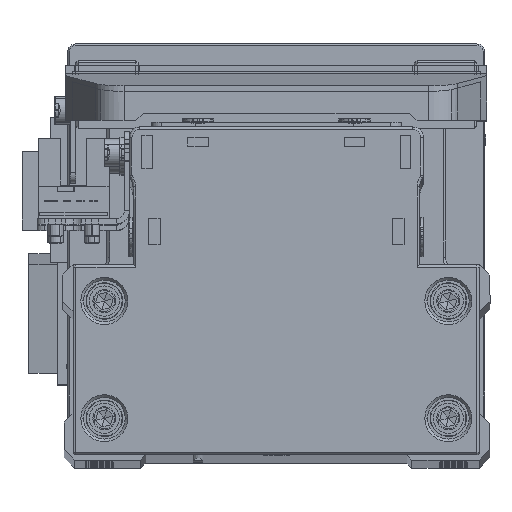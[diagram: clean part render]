
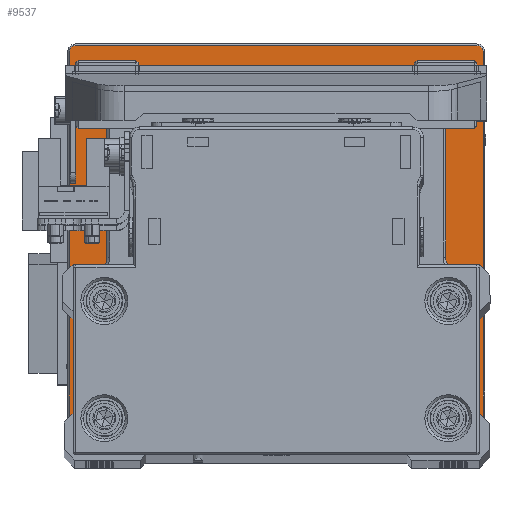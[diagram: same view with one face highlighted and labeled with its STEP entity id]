
A CAD part, top view. The second image highlights one B-rep face of the part: STEP entity #9537.
In plain terms, the highlighted planar face has unit normal (0, 0, 1) as drawn and (0, 1, 0) by its records, which use the part's own axes.
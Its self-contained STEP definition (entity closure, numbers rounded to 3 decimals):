
#873 = DIRECTION ( 'NONE',  ( 0., 1., 0. ) ) ;
#1171 = EDGE_CURVE ( 'NONE', #32049, #7906, #16117, .T. ) ;
#1438 = CARTESIAN_POINT ( 'NONE',  ( -38.5, 12., -38.5 ) ) ;
#1486 = CIRCLE ( 'NONE', #24028, 20.5 ) ;
#1907 = CARTESIAN_POINT ( 'NONE',  ( -39.7, 12., 0. ) ) ;
#3354 = AXIS2_PLACEMENT_3D ( 'NONE', #38818, #11182, #23471 ) ;
#3469 = VECTOR ( 'NONE', #23938, 1000. ) ;
#3716 = VERTEX_POINT ( 'NONE', #23801 ) ;
#3722 = AXIS2_PLACEMENT_3D ( 'NONE', #1438, #13734, #26041 ) ;
#3847 = ORIENTED_EDGE ( 'NONE', *, *, #1171, .T. ) ;
#3901 = VERTEX_POINT ( 'NONE', #9665 ) ;
#4425 = ORIENTED_EDGE ( 'NONE', *, *, #11973, .T. ) ;
#5103 = LINE ( 'NONE', #17395, #16347 ) ;
#6038 = CARTESIAN_POINT ( 'NONE',  ( -38.5, 12., 39.7 ) ) ;
#6257 = EDGE_CURVE ( 'NONE', #3716, #34545, #15578, .T. ) ;
#6376 = DIRECTION ( 'NONE',  ( 1., 0., 0. ) ) ;
#6528 = CARTESIAN_POINT ( 'NONE',  ( 0., 12., 0. ) ) ;
#6662 = ORIENTED_EDGE ( 'NONE', *, *, #23193, .F. ) ;
#7906 = VERTEX_POINT ( 'NONE', #20044 ) ;
#9537 = ADVANCED_FACE ( 'NONE', ( #9543, #21839 ), #34142, .F. ) ;
#9543 = FACE_OUTER_BOUND ( 'NONE', #12136, .T. ) ;
#9665 = CARTESIAN_POINT ( 'NONE',  ( 0., 12., 20.5 ) ) ;
#10402 = CARTESIAN_POINT ( 'NONE',  ( 39.7, 12., 38.5 ) ) ;
#10541 = CARTESIAN_POINT ( 'NONE',  ( 39.7, 12., -38.5 ) ) ;
#10771 = VERTEX_POINT ( 'NONE', #26972 ) ;
#10898 = EDGE_CURVE ( 'NONE', #13927, #3716, #21697, .T. ) ;
#11182 = DIRECTION ( 'NONE',  ( 0., 1., 0. ) ) ;
#11459 = ORIENTED_EDGE ( 'NONE', *, *, #24261, .T. ) ;
#11521 = EDGE_CURVE ( 'NONE', #21881, #10771, #29526, .T. ) ;
#11552 = DIRECTION ( 'NONE',  ( 0., 1., 0. ) ) ;
#11651 = CARTESIAN_POINT ( 'NONE',  ( 0., 12., -39.7 ) ) ;
#11823 = EDGE_CURVE ( 'NONE', #13268, #3901, #33472, .T. ) ;
#11973 = EDGE_CURVE ( 'NONE', #10771, #13927, #17362, .T. ) ;
#12037 = DIRECTION ( 'NONE',  ( 0., 1., 0. ) ) ;
#12136 = EDGE_LOOP ( 'NONE', ( #3847, #34246, #34982, #17693, #4425, #18320, #14850, #11459 ) ) ;
#13174 = DIRECTION ( 'NONE',  ( 0., 0., 1. ) ) ;
#13268 = VERTEX_POINT ( 'NONE', #31967 ) ;
#13734 = DIRECTION ( 'NONE',  ( 0., 1., 0. ) ) ;
#13927 = VERTEX_POINT ( 'NONE', #6038 ) ;
#13960 = CARTESIAN_POINT ( 'NONE',  ( -38.5, 12., 38.5 ) ) ;
#14029 = EDGE_LOOP ( 'NONE', ( #6662, #20898 ) ) ;
#14218 = DIRECTION ( 'NONE',  ( 0., 0., 1. ) ) ;
#14850 = ORIENTED_EDGE ( 'NONE', *, *, #6257, .T. ) ;
#15410 = VECTOR ( 'NONE', #14218, 1000. ) ;
#15578 = CIRCLE ( 'NONE', #3354, 1.2 ) ;
#16067 = AXIS2_PLACEMENT_3D ( 'NONE', #28489, #873, #13174 ) ;
#16117 = CIRCLE ( 'NONE', #38685, 1.2 ) ;
#16347 = VECTOR ( 'NONE', #29705, 1000. ) ;
#17049 = AXIS2_PLACEMENT_3D ( 'NONE', #6528, #18814, #31118 ) ;
#17362 = CIRCLE ( 'NONE', #39871, 1.2 ) ;
#17395 = CARTESIAN_POINT ( 'NONE',  ( 39.7, 12., 0. ) ) ;
#17693 = ORIENTED_EDGE ( 'NONE', *, *, #11521, .T. ) ;
#18320 = ORIENTED_EDGE ( 'NONE', *, *, #10898, .T. ) ;
#18814 = DIRECTION ( 'NONE',  ( 0., -1., 0. ) ) ;
#19422 = CARTESIAN_POINT ( 'NONE',  ( -38.5, 12., -39.7 ) ) ;
#20044 = CARTESIAN_POINT ( 'NONE',  ( 38.5, 12., -39.7 ) ) ;
#20898 = ORIENTED_EDGE ( 'NONE', *, *, #11823, .F. ) ;
#21095 = CIRCLE ( 'NONE', #3722, 1.2 ) ;
#21697 = LINE ( 'NONE', #33995, #32722 ) ;
#21816 = CARTESIAN_POINT ( 'NONE',  ( -39.7, 12., -38.5 ) ) ;
#21839 = FACE_BOUND ( 'NONE', #14029, .T. ) ;
#21881 = VERTEX_POINT ( 'NONE', #21816 ) ;
#23193 = EDGE_CURVE ( 'NONE', #3901, #13268, #1486, .T. ) ;
#23471 = DIRECTION ( 'NONE',  ( 0., 0., -1. ) ) ;
#23801 = CARTESIAN_POINT ( 'NONE',  ( 38.5, 12., 39.7 ) ) ;
#23835 = DIRECTION ( 'NONE',  ( 0., 0., -1. ) ) ;
#23938 = DIRECTION ( 'NONE',  ( -1., 0., 0. ) ) ;
#24028 = AXIS2_PLACEMENT_3D ( 'NONE', #39676, #12037, #24326 ) ;
#24261 = EDGE_CURVE ( 'NONE', #34545, #32049, #5103, .T. ) ;
#24326 = DIRECTION ( 'NONE',  ( 0., 0., 1. ) ) ;
#26041 = DIRECTION ( 'NONE',  ( 0., 0., -1. ) ) ;
#26263 = DIRECTION ( 'NONE',  ( 0., 1., 0. ) ) ;
#26972 = CARTESIAN_POINT ( 'NONE',  ( -39.7, 12., 38.5 ) ) ;
#28489 = CARTESIAN_POINT ( 'NONE',  ( 0., 12., 0. ) ) ;
#29526 = LINE ( 'NONE', #1907, #15410 ) ;
#29705 = DIRECTION ( 'NONE',  ( 0., 0., -1. ) ) ;
#31118 = DIRECTION ( 'NONE',  ( 0., 0., -1. ) ) ;
#31256 = EDGE_CURVE ( 'NONE', #33704, #21881, #21095, .T. ) ;
#31967 = CARTESIAN_POINT ( 'NONE',  ( 0., 12., -20.5 ) ) ;
#32049 = VERTEX_POINT ( 'NONE', #10541 ) ;
#32722 = VECTOR ( 'NONE', #6376, 1000. ) ;
#33472 = CIRCLE ( 'NONE', #16067, 20.5 ) ;
#33704 = VERTEX_POINT ( 'NONE', #19422 ) ;
#33995 = CARTESIAN_POINT ( 'NONE',  ( 0., 12., 39.7 ) ) ;
#34142 = PLANE ( 'NONE',  #17049 ) ;
#34246 = ORIENTED_EDGE ( 'NONE', *, *, #38948, .T. ) ;
#34545 = VERTEX_POINT ( 'NONE', #10402 ) ;
#34982 = ORIENTED_EDGE ( 'NONE', *, *, #31256, .T. ) ;
#38569 = DIRECTION ( 'NONE',  ( 0., 0., -1. ) ) ;
#38685 = AXIS2_PLACEMENT_3D ( 'NONE', #39184, #11552, #23835 ) ;
#38818 = CARTESIAN_POINT ( 'NONE',  ( 38.5, 12., 38.5 ) ) ;
#38948 = EDGE_CURVE ( 'NONE', #7906, #33704, #39271, .T. ) ;
#39184 = CARTESIAN_POINT ( 'NONE',  ( 38.5, 12., -38.5 ) ) ;
#39271 = LINE ( 'NONE', #11651, #3469 ) ;
#39676 = CARTESIAN_POINT ( 'NONE',  ( 0., 12., 0. ) ) ;
#39871 = AXIS2_PLACEMENT_3D ( 'NONE', #13960, #26263, #38569 ) ;
